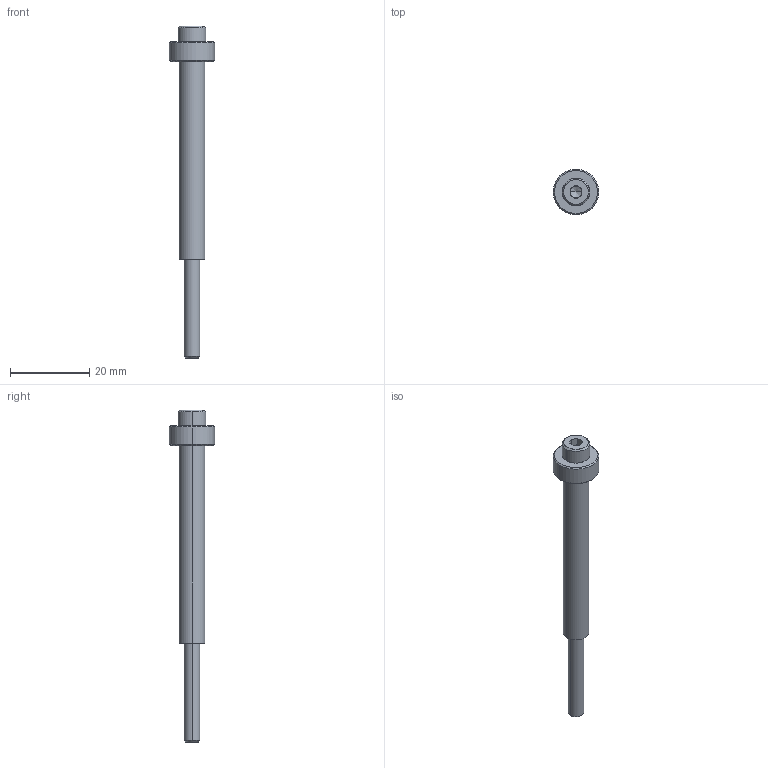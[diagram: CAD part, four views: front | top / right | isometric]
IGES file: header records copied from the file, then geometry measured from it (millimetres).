
Global section: file name: E:\UnigraphicsGraphicData\MISUMI_PRESS-PARTS\IGES\3d_sbth6.5-50-80_05157_r00.igs; native system: NX V5.0; preprocessor: UGS NX IGES V5.0; author: MISUMI; date: 20110105.162501; units: millimetre
Bounding box: 11.5 x 11.5 x 84 mm (x, y, z)
Surface area: 3275.9 mm2 (no closed solid volume)
Topology: 0 solids, 0 shells, 45 faces, 252 edges, 250 vertices
Faces by surface type: bspline 45
